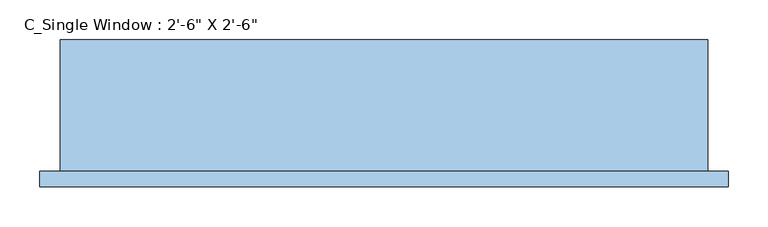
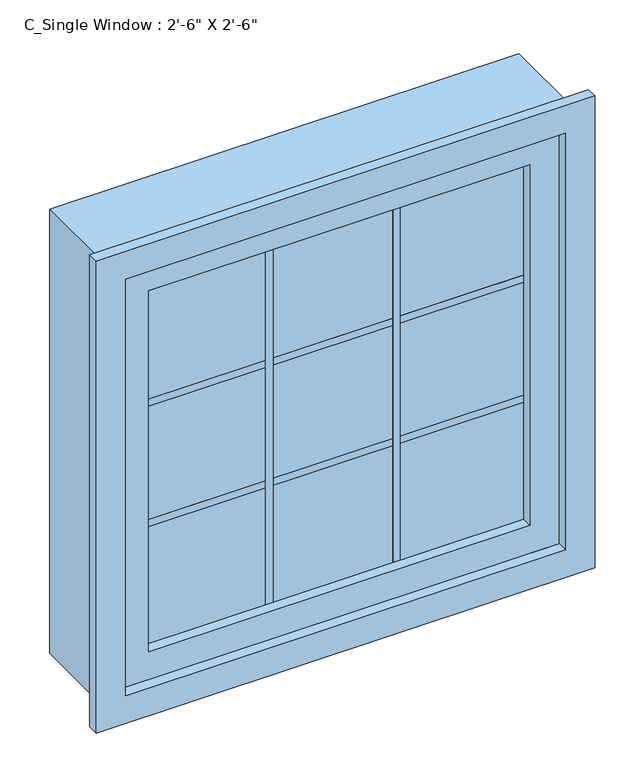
"""IFC4 building model written with IfcOpenShell, lengths in millimetres: window geometry."""

from ifc_helpers import new_model, si_unit, frame, origin, place, context, project, spatial, polyline, outline, extrude, source, transform, mapped, element, save


def window_54868480(model_context):
    return source(origin(), model_context, "Body", "SweptSolid", [
        extrude(outline(polyline([(-103.7166667, -50.8), (-103.7166667, -63.5), (-116.4166667, -63.5), (-116.4166667, -50.8), (-103.7166667, -50.8)])), frame((0.0, 0.0, 863.6), z_axis=(0.0, 0.0, 1.0), x_axis=(1.0, 0.0, 0.0)), (0.0, 0.0, 1.0), 660.4),
        extrude(outline(polyline([(116.4166667, -50.8), (116.4166667, -63.5), (103.7166667, -63.5), (103.7166667, -50.8), (116.4166667, -50.8)])), frame((0.0, 0.0, 863.6), z_axis=(0.0, 0.0, 1.0), x_axis=(1.0, 0.0, 0.0)), (0.0, 0.0, 1.0), 660.4),
        extrude(outline(polyline([(-330.2, -63.5), (-330.2, -50.8), (330.2, -50.8), (330.2, -63.5), (-330.2, -63.5)])), frame((0.0, 0.0, 1297.5166667), z_axis=(0.0, 0.0, 1.0), x_axis=(1.0, 0.0, 0.0)), (0.0, 0.0, 1.0), 12.7),
        extrude(outline(polyline([(-330.2, -63.5), (-330.2, -50.8), (330.2, -50.8), (330.2, -63.5), (-330.2, -63.5)])), frame((0.0, 0.0, 1077.3833333), z_axis=(0.0, 0.0, 1.0), x_axis=(1.0, 0.0, 0.0)), (0.0, 0.0, 1.0), 12.7),
        extrude(outline(polyline([(-330.2, -63.5), (-330.2, -50.8), (330.2, -50.8), (330.2, -63.5), (-330.2, -63.5)])), frame((0.0, 0.0, 863.6), z_axis=(0.0, 0.0, 1.0), x_axis=(1.0, 0.0, 0.0)), (0.0, 0.0, 1.0), 660.4),
        extrude(outline(polyline([(1574.8, -381.0), (812.8, -381.0), (812.8, 381.0), (1574.8, 381.0), (1574.8, -381.0)]), holes=[polyline([(1524.0, 330.2), (863.6, 330.2), (863.6, -330.2), (1524.0, -330.2), (1524.0, 330.2)])]), frame((0.0, -82.55, 0.0), z_axis=(0.0, 1.0, 0.0), x_axis=(0.0, 0.0, 1.0)), (0.0, 0.0, 1.0), 50.8),
        extrude(outline(polyline([(1625.6, -431.8), (762.0, -431.8), (762.0, 431.8), (1625.6, 431.8), (1625.6, -431.8)]), holes=[polyline([(1574.8, -381.0), (1574.8, 381.0), (812.8, 381.0), (812.8, -381.0), (1574.8, -381.0)])]), frame((0.0, -101.6, 0.0), z_axis=(0.0, 1.0, 0.0), x_axis=(0.0, 0.0, 1.0)), (0.0, 0.0, 1.0), 19.05),
        extrude(outline(polyline([(1600.2, -406.4), (787.4, -406.4), (787.4, 406.4), (1600.2, 406.4), (1600.2, -406.4)]), holes=[polyline([(1574.8, 381.0), (812.8, 381.0), (812.8, -381.0), (1574.8, -381.0), (1574.8, 381.0)])]), frame((0.0, -82.55, 0.0), z_axis=(0.0, 1.0, 0.0), x_axis=(0.0, 0.0, 1.0)), (0.0, 0.0, 1.0), 165.1),
    ])


if __name__ == "__main__":
    model = new_model("IFC4")
    model_context = context("Model", 3, world=origin())
    ifc_project = project(units=[si_unit("LENGTHUNIT", "METRE", prefix="MILLI")], contexts=[model_context])
    site = spatial("IfcSite", under=ifc_project)
    building = spatial("IfcBuilding", under=site)
    placement = place(None, origin())
    window_shape = window_54868480(model_context)
    element("IfcWindow", 1, ObjectType="C_Single Window : 2'-6\" X 2'-6\"", at=placement, inside=building, context=model_context, shape_type="MappedRepresentation", body=[
        mapped(window_shape, transform((0.0, 0.0, 0.0), x_axis=(1.0, 0.0, 0.0), y_axis=(0.0, 1.0, 0.0), z_axis=(0.0, 0.0, 1.0))),
    ])
    save(model, "model.ifc")
